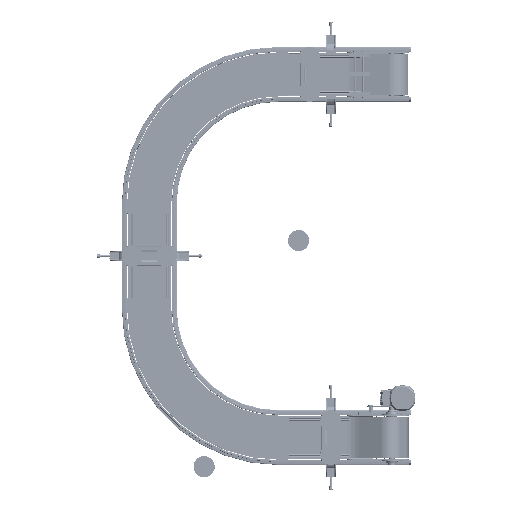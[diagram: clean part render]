
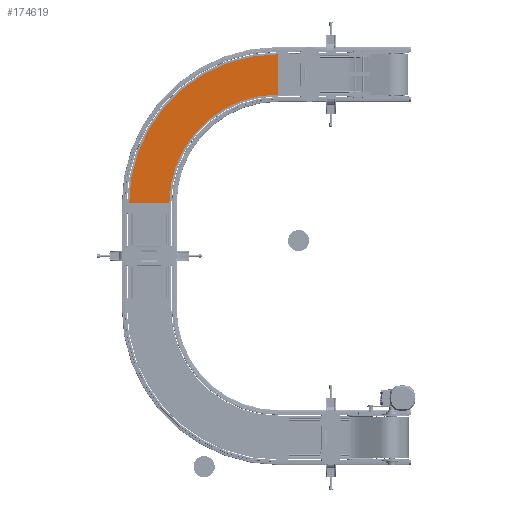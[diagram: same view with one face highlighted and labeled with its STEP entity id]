
A CAD part, front view. The second image highlights one B-rep face of the part: STEP entity #174619.
In plain terms, the highlighted planar face has unit normal (0, -1, 0).
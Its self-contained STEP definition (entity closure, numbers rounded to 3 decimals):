
#2469 = VERTEX_POINT ( 'NONE', #70304 ) ;
#8763 = CARTESIAN_POINT ( 'NONE',  ( 1110., -120.83, 839.75 ) ) ;
#12470 = DIRECTION ( 'NONE',  ( 0., -1., 0. ) ) ;
#18234 = CARTESIAN_POINT ( 'NONE',  ( 1815.25, -120.83, 325. ) ) ;
#30986 = VERTEX_POINT ( 'NONE', #120185 ) ;
#33278 = DIRECTION ( 'NONE',  ( 0., 0., 1. ) ) ;
#35396 = EDGE_CURVE ( 'NONE', #30986, #80223, #180706, .T. ) ;
#41661 = DIRECTION ( 'NONE',  ( -1., 0., 0. ) ) ;
#48739 = FACE_OUTER_BOUND ( 'NONE', #84677, .T. ) ;
#49790 = CARTESIAN_POINT ( 'NONE',  ( 1110., -120.83, 325. ) ) ;
#52955 = AXIS2_PLACEMENT_3D ( 'NONE', #49790, #71010, #223606 ) ;
#53755 = LINE ( 'NONE', #148781, #85862 ) ;
#56654 = AXIS2_PLACEMENT_3D ( 'NONE', #147025, #105827, #33278 ) ;
#57935 = LINE ( 'NONE', #95480, #130122 ) ;
#70304 = CARTESIAN_POINT ( 'NONE',  ( 1624.75, -120.83, 325. ) ) ;
#71010 = DIRECTION ( 'NONE',  ( 0., 1., 0. ) ) ;
#80223 = VERTEX_POINT ( 'NONE', #18234 ) ;
#84677 = EDGE_LOOP ( 'NONE', ( #113211, #124263, #172192, #232823 ) ) ;
#85862 = VECTOR ( 'NONE', #202590, 1000. ) ;
#95480 = CARTESIAN_POINT ( 'NONE',  ( 1624.75, -120.83, 325. ) ) ;
#103544 = VERTEX_POINT ( 'NONE', #108180 ) ;
#105001 = DIRECTION ( 'NONE',  ( 0., 0., -1. ) ) ;
#105827 = DIRECTION ( 'NONE',  ( 0., 1., 0. ) ) ;
#106250 = PLANE ( 'NONE',  #137743 ) ;
#108180 = CARTESIAN_POINT ( 'NONE',  ( 1110., -120.83, 839.75 ) ) ;
#113211 = ORIENTED_EDGE ( 'NONE', *, *, #147952, .T. ) ;
#117432 = EDGE_CURVE ( 'NONE', #80223, #2469, #57935, .T. ) ;
#120185 = CARTESIAN_POINT ( 'NONE',  ( 1110., -120.83, 1030.25 ) ) ;
#124263 = ORIENTED_EDGE ( 'NONE', *, *, #117432, .F. ) ;
#130122 = VECTOR ( 'NONE', #41661, 1000. ) ;
#132550 = CIRCLE ( 'NONE', #56654, 514.75 ) ;
#137743 = AXIS2_PLACEMENT_3D ( 'NONE', #8763, #12470, #105001 ) ;
#147025 = CARTESIAN_POINT ( 'NONE',  ( 1110., -120.83, 325. ) ) ;
#147952 = EDGE_CURVE ( 'NONE', #103544, #2469, #132550, .T. ) ;
#148781 = CARTESIAN_POINT ( 'NONE',  ( 1110., -120.83, 839.75 ) ) ;
#172192 = ORIENTED_EDGE ( 'NONE', *, *, #35396, .F. ) ;
#174619 = ADVANCED_FACE ( 'NONE', ( #48739 ), #106250, .T. ) ;
#180706 = CIRCLE ( 'NONE', #52955, 705.25 ) ;
#202590 = DIRECTION ( 'NONE',  ( 0., 0., -1. ) ) ;
#223606 = DIRECTION ( 'NONE',  ( 0., 0., 1. ) ) ;
#232823 = ORIENTED_EDGE ( 'NONE', *, *, #238004, .T. ) ;
#238004 = EDGE_CURVE ( 'NONE', #30986, #103544, #53755, .T. ) ;
